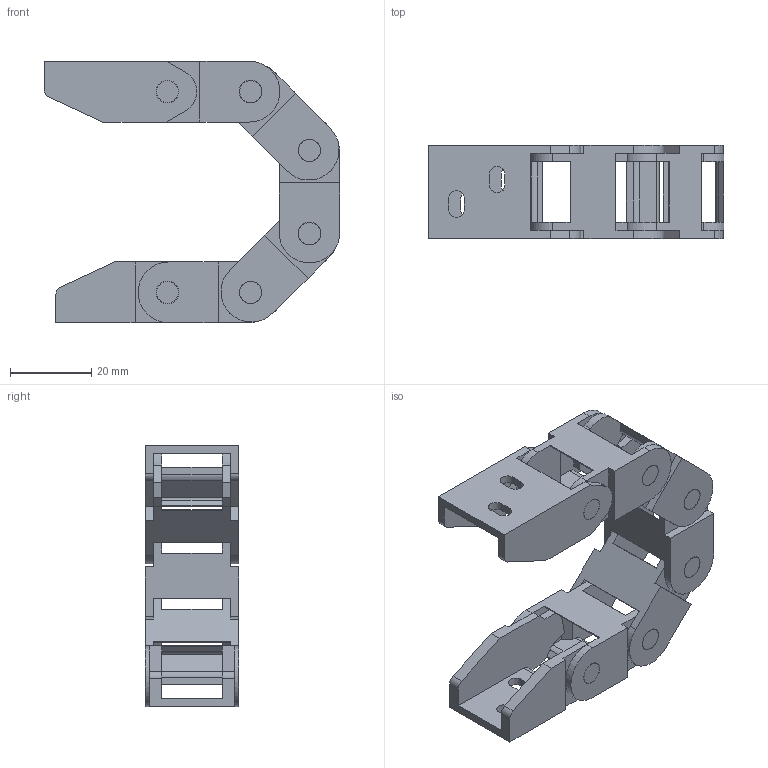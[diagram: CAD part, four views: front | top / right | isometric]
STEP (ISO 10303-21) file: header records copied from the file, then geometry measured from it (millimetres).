
FILE_DESCRIPTION(('STEP AP214'), '1');
FILE_NAME('drag-chain', '2022-03-23T21:28:31', ('AF'), (''), 'UNSPECIFIED', 'UNSPECIFIED', '');
FILE_SCHEMA(('AUTOMOTIVE_DESIGN { 1 0 10303 214 3 1 1}'));
Length unit declared in the file: millimetre
Assembly tree (7 placements, depth 2):
  (unnamed)
    (unnamed)
    (unnamed)  x5
    (unnamed)
Bounding box: 72.9 x 23 x 64.49 mm (x, y, z)
Volume: 18967.8 mm3; surface area: 22170.8 mm2
Topology: 7 solids, 7 shells, 304 faces, 864 edges, 576 vertices
Faces by surface type: plane 222, cylinder 82
Full cylindrical faces by diameter (mm): 5.4 x12, 5.5 x2, 5.6 x10
Entity records: 5114 total; most frequent: CARTESIAN_POINT 680, ORIENTED_EDGE 656, DIRECTION 652, EDGE_CURVE 328, LINE 260, VECTOR 260, VERTEX_POINT 224, AXIS2_PLACEMENT_3D 196
